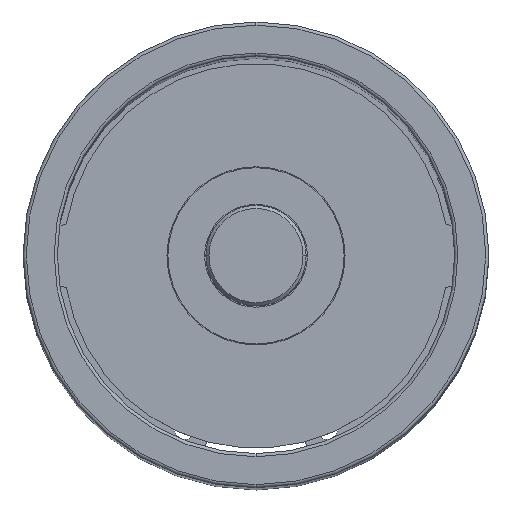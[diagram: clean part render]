
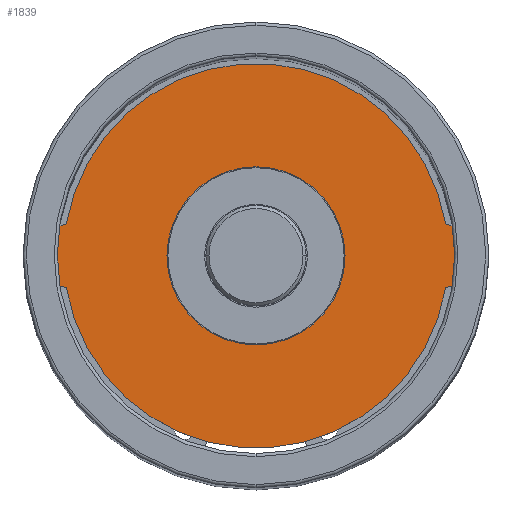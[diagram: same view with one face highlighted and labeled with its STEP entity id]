
A CAD part, top view. The second image highlights one B-rep face of the part: STEP entity #1839.
In plain terms, the highlighted planar face has unit normal (0, 0, 1).
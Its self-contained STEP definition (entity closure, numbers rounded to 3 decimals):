
#1701=CARTESIAN_POINT('',(14.2,0.,0.));
#1702=VERTEX_POINT('',#1701);
#1718=CARTESIAN_POINT('',(-14.2,0.,0.0));
#1719=VERTEX_POINT('',#1718);
#1726=CARTESIAN_POINT('',(0.0,0.,0.0));
#1727=DIRECTION('',(0.0,0.0,-1.0));
#1728=DIRECTION('',(1.0,0.0,0.0));
#1729=AXIS2_PLACEMENT_3D('',#1726,#1727,#1728);
#1730=CIRCLE('',#1729,14.2);
#1731=EDGE_CURVE('',#1702,#1719,#1730,.T.);
#1742=CARTESIAN_POINT('',(0.0,0.,0.0));
#1743=DIRECTION('',(0.0,0.0,-1.0));
#1744=DIRECTION('',(1.0,0.0,0.0));
#1745=AXIS2_PLACEMENT_3D('',#1742,#1743,#1744);
#1746=CIRCLE('',#1745,14.2);
#1747=EDGE_CURVE('',#1719,#1702,#1746,.T.);
#1767=CARTESIAN_POINT('',(-30.226,5.082,0.));
#1768=VERTEX_POINT('',#1767);
#1784=CARTESIAN_POINT('',(-30.226,-5.082,0.));
#1785=VERTEX_POINT('',#1784);
#1792=CARTESIAN_POINT('',(-29.125,0.,0.));
#1793=DIRECTION('',(0.0,0.0,-1.0));
#1794=DIRECTION('',(1.0,0.0,0.0));
#1795=AXIS2_PLACEMENT_3D('',#1792,#1793,#1794);
#1796=CIRCLE('',#1795,5.2);
#1797=EDGE_CURVE('',#1785,#1768,#1796,.T.);
#1802=CARTESIAN_POINT('',(0.0,0.,0.));
#1803=DIRECTION('',(0.0,0.0,1.0));
#1804=DIRECTION('',(1.0,0.0,0.0));
#1805=AXIS2_PLACEMENT_3D('',#1802,#1803,#1804);
#1806=PLANE('',#1805);
#1807=CARTESIAN_POINT('',(30.226,-5.082,0.));
#1808=VERTEX_POINT('',#1807);
#1809=CARTESIAN_POINT('',(0.0,0.,0.));
#1810=DIRECTION('',(0.0,0.0,-1.0));
#1811=DIRECTION('',(1.0,0.0,0.0));
#1812=AXIS2_PLACEMENT_3D('',#1809,#1810,#1811);
#1813=CIRCLE('',#1812,30.65);
#1814=EDGE_CURVE('',#1808,#1785,#1813,.T.);
#1815=ORIENTED_EDGE('',*,*,#1814,.F.);
#1816=CARTESIAN_POINT('',(30.226,5.082,0.));
#1817=VERTEX_POINT('',#1816);
#1818=CARTESIAN_POINT('',(29.125,0.,0.));
#1819=DIRECTION('',(0.0,0.0,-1.0));
#1820=DIRECTION('',(1.0,0.0,0.0));
#1821=AXIS2_PLACEMENT_3D('',#1818,#1819,#1820);
#1822=CIRCLE('',#1821,5.2);
#1823=EDGE_CURVE('',#1817,#1808,#1822,.T.);
#1824=ORIENTED_EDGE('',*,*,#1823,.F.);
#1825=CARTESIAN_POINT('',(0.0,0.,0.));
#1826=DIRECTION('',(0.0,0.0,-1.0));
#1827=DIRECTION('',(1.0,0.0,0.0));
#1828=AXIS2_PLACEMENT_3D('',#1825,#1826,#1827);
#1829=CIRCLE('',#1828,30.65);
#1830=EDGE_CURVE('',#1768,#1817,#1829,.T.);
#1831=ORIENTED_EDGE('',*,*,#1830,.F.);
#1832=ORIENTED_EDGE('',*,*,#1797,.F.);
#1833=EDGE_LOOP('',(#1815,#1824,#1831,#1832));
#1834=FACE_OUTER_BOUND('',#1833,.T.);
#1835=ORIENTED_EDGE('',*,*,#1731,.T.);
#1836=ORIENTED_EDGE('',*,*,#1747,.T.);
#1837=EDGE_LOOP('',(#1835,#1836));
#1838=FACE_BOUND('',#1837,.T.);
#1839=ADVANCED_FACE('',(#1834,#1838),#1806,.T.);
